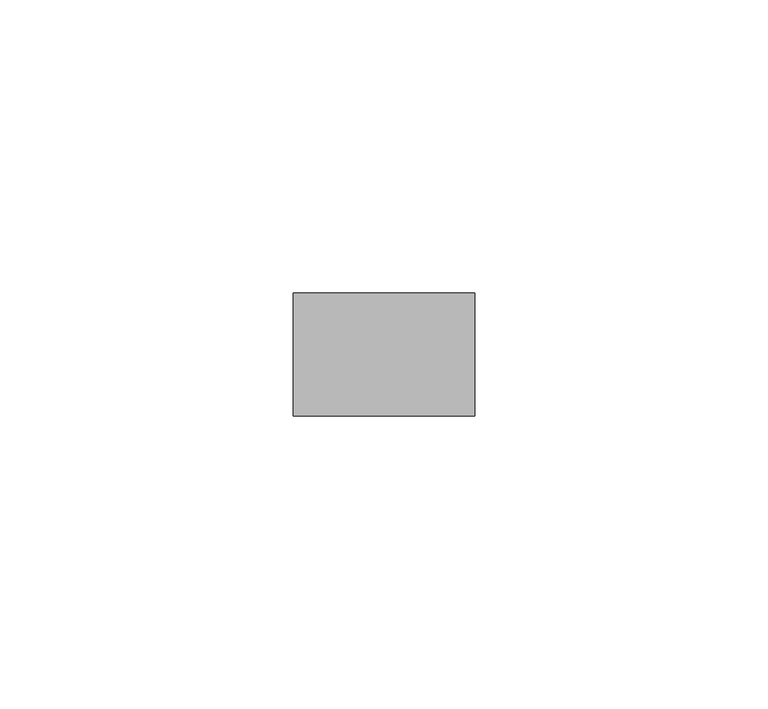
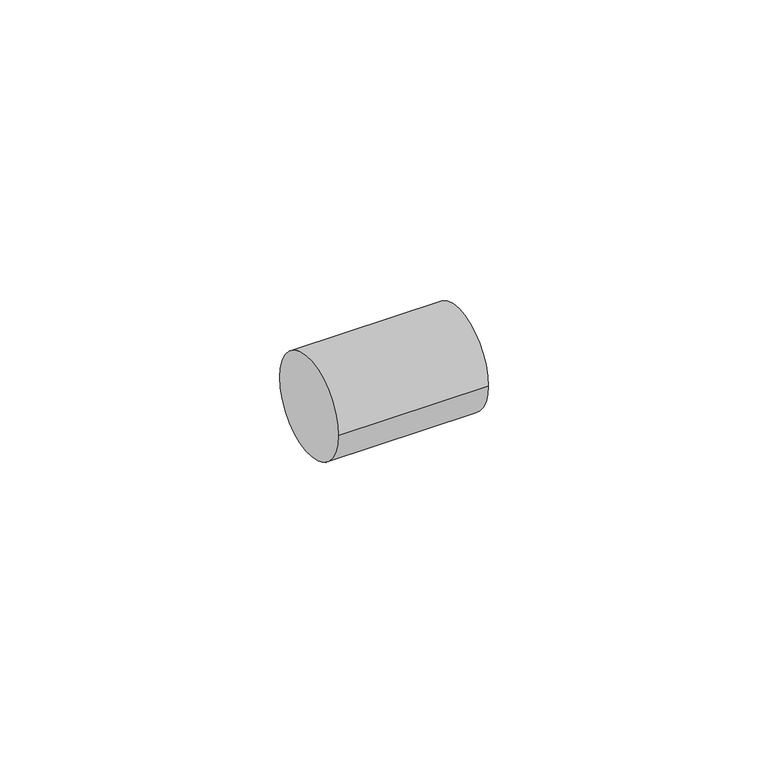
"""IFC4 building model written with IfcOpenShell, lengths in millimetres: pipe fitting geometry, 01051005 : Manchons égaux."""

from ifc_helpers import new_model, si_unit, point, frame, origin, origin_2d, place, context, project, spatial, circle_curve, trimmed, segment, composite_curve, outline, extrude, source, transform, mapped, element, save


def pipe_fitting_317b4887(model_context):
    return source(origin(), model_context, "Body", "SweptSolid", [
        extrude(outline(composite_curve([segment(trimmed(circle_curve(origin_2d(), 10.5), [point((-10.5, 0.0))], [point((10.5, 0.0))], False, "CARTESIAN"), True, "CONTINUOUS"), segment(trimmed(circle_curve(origin_2d(), 10.5), [point((10.5, 0.0))], [point((-10.5, 0.0))], False, "CARTESIAN"), True, "CONTINUOUS")], self_intersect=False)), frame((-15.5, 0.0, 0.0), z_axis=(1.0, 0.0, 0.0), x_axis=(0.0, 1.0, 0.0)), (0.0, 0.0, 1.0), 31.0),
    ])


if __name__ == "__main__":
    model = new_model("IFC4")
    model_context = context("Model", 3, world=origin())
    ifc_project = project(units=[si_unit("LENGTHUNIT", "METRE", prefix="MILLI")], contexts=[model_context])
    site = spatial("IfcSite", under=ifc_project)
    building = spatial("IfcBuilding", under=site)
    placement = place(None, origin())
    pipe_fitting_shape = pipe_fitting_317b4887(model_context)
    element("IfcPipeFitting", 1, ObjectType="01051005 : Manchons égaux", at=placement, inside=building, context=model_context, shape_type="MappedRepresentation", body=[
        mapped(pipe_fitting_shape, transform((0.0, 0.0, 0.0), x_axis=(1.0, 0.0, 0.0), y_axis=(0.0, 1.0, 0.0), z_axis=(0.0, 0.0, 1.0))),
    ])
    save(model, "model.ifc")
